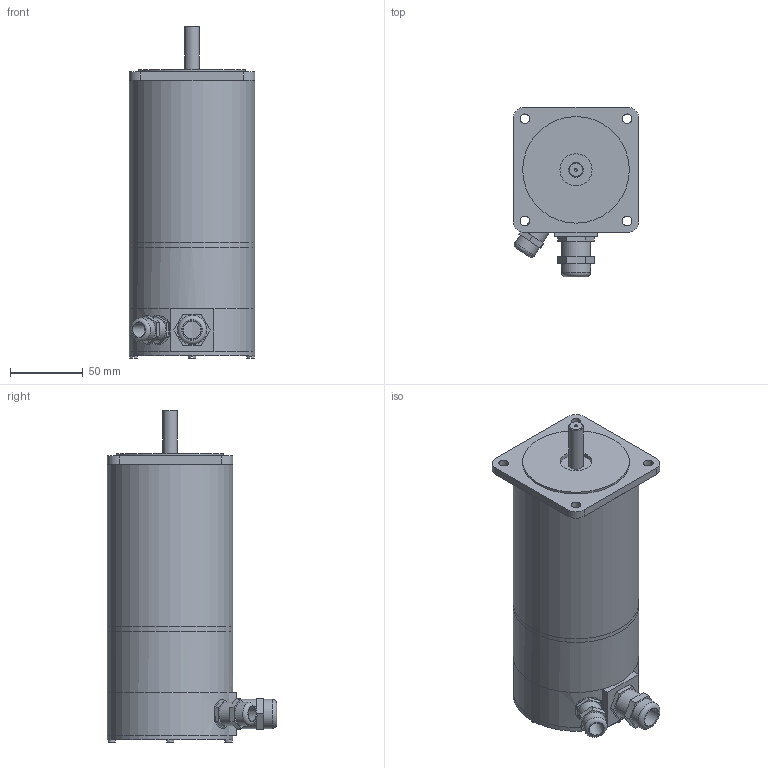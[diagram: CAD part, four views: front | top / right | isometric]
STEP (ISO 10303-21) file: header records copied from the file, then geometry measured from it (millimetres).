
FILE_DESCRIPTION((''),'2;1');
FILE_NAME('C:\Users\Reinhard\Documents\Inventor\Testschrittmotor\SM87\SM87.3-B-KV.stp','2012-11-14T20:32:09',('Reinhard'),(''),'Autodesk Inventor 2012','Autodesk Inventor 2012','');
FILE_SCHEMA(('CONFIG_CONTROL_DESIGN'));
Length unit declared in the file: millimetre
Products named in the file (1): SM87
Bounding box: 86 x 115.99 x 227.4 mm (x, y, z)
Volume: 203307.4 mm3; surface area: 143976.8 mm2
Topology: 2 solids, 3 shells, 142 faces, 317 edges, 205 vertices
Faces by surface type: plane 86, cylinder 49, cone 3, sphere 2, torus 2
Full cylindrical faces by diameter (mm): 2 x1, 5 x4, 6.6 x4, 10 x2, 12 x2, 13 x2, 15 x1, 16 x2, 18.376 x1, 20 x3, 22 x1, 73 x1, 78 x2, 82 x2, 86 x4
Entity records: 3824 total; most frequent: CARTESIAN_POINT 737, DIRECTION 653, ORIENTED_EDGE 540, EDGE_CURVE 270, AXIS2_PLACEMENT_3D 253, EDGE_LOOP 217, VERTEX_POINT 195, VECTOR 147
